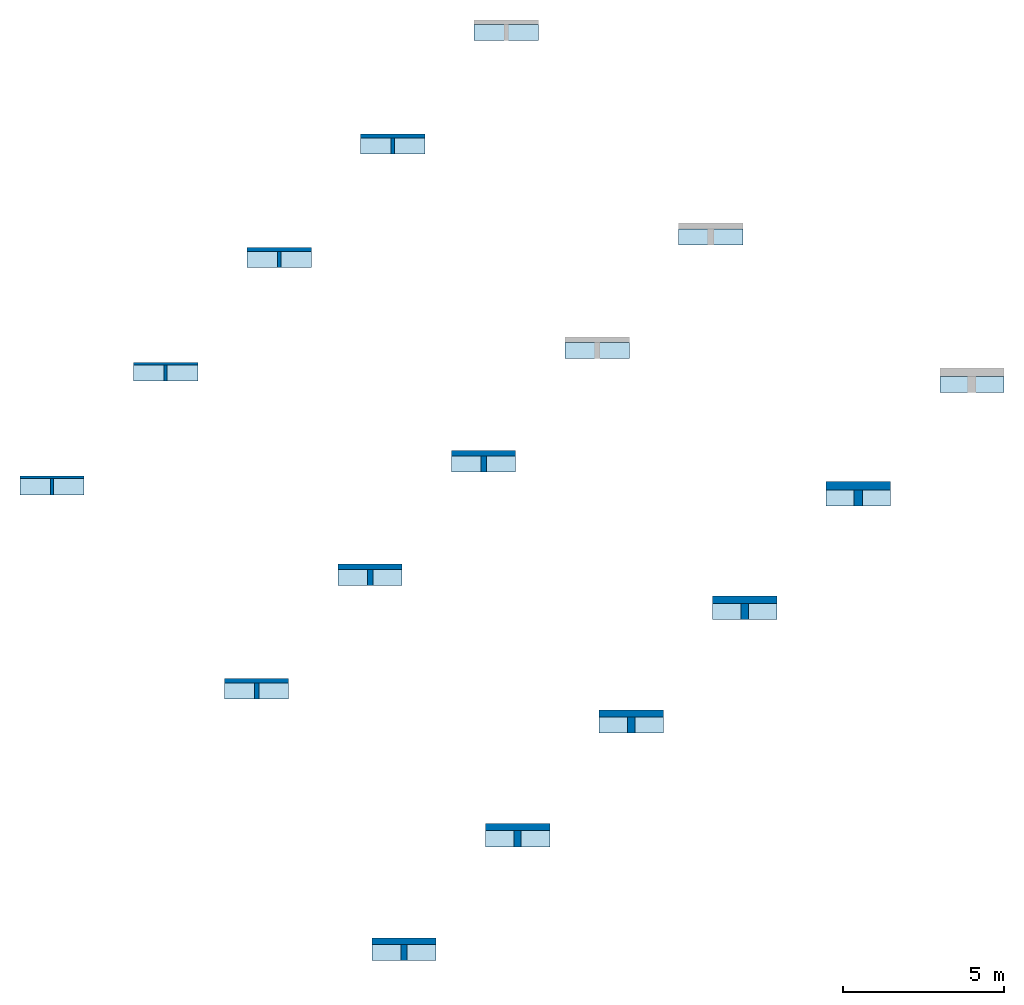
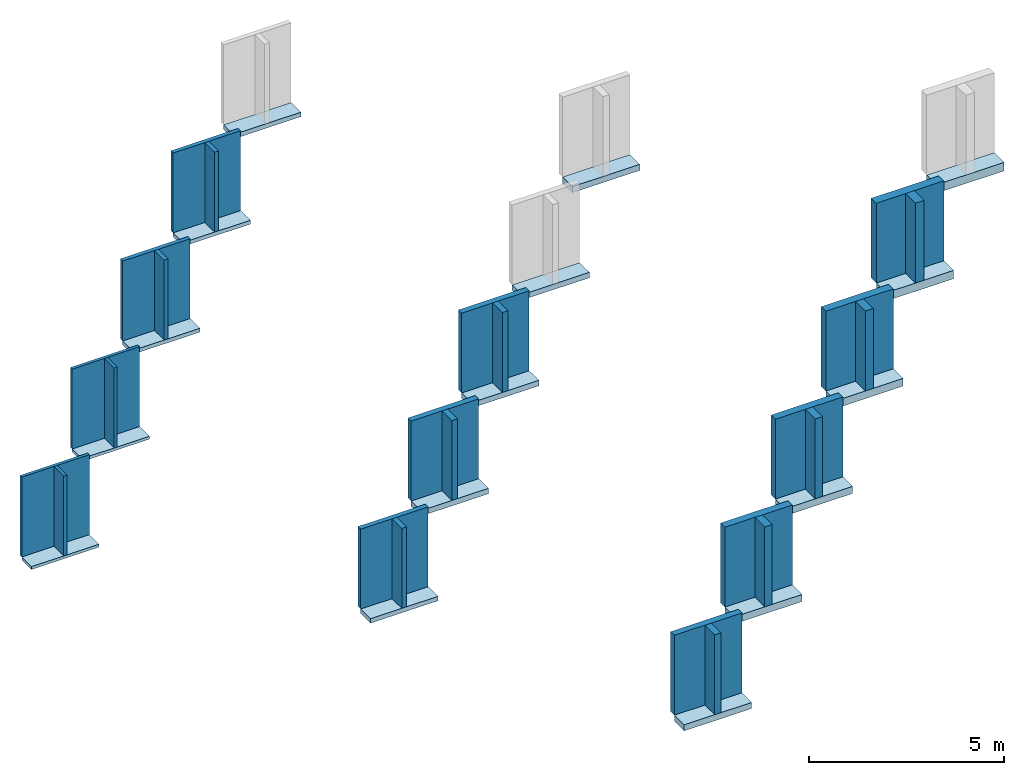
# One storey, part 1 of 2: 24 walls, 16 slabs.
"""IFC2X3 building model written with IfcOpenShell, lengths in millimetres."""

from ifc_helpers import new_model, entity, si_unit, converted_unit, derived_unit, direction, frame, frame_2d, origin, origin_2d_with_axis, place, context, subcontext, project, spatial, rectangle, extrude, material, layer, layer_set, layer_usage, type_object, element, save


model = new_model("IFC2X3")

# Units and contexts
model_context = context("Model", 3, precision=0.01, world=origin(), true_north=direction((6.12303176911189e-17, 1.0)))
context_of_model = context(None, 3, precision=0.01, world=origin(), true_north=direction((6.12303176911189e-17, 1.0)))
body_context = subcontext(model_context, "Body", "Model", "MODEL_VIEW")
ifc_project = project(units=[si_unit("LENGTHUNIT", "METRE", prefix="MILLI"), si_unit("AREAUNIT", "SQUARE_METRE"), si_unit("VOLUMEUNIT", "CUBIC_METRE"), converted_unit("PLANEANGLEUNIT", "DEGREE", entity("IfcRatioMeasure", 0.0174532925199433), si_unit("PLANEANGLEUNIT", "RADIAN"), dimensions=[0, 0, 0, 0, 0, 0, 0]), si_unit("MASSUNIT", "GRAM", prefix="KILO"), derived_unit("MASSDENSITYUNIT", [(si_unit("MASSUNIT", "GRAM", prefix="KILO"), 1), (si_unit("LENGTHUNIT", "METRE"), -3)]), si_unit("TIMEUNIT", "SECOND"), si_unit("FREQUENCYUNIT", "HERTZ"), si_unit("THERMODYNAMICTEMPERATUREUNIT", "DEGREE_CELSIUS"), derived_unit("THERMALTRANSMITTANCEUNIT", [(si_unit("MASSUNIT", "GRAM", prefix="KILO"), 1), (si_unit("THERMODYNAMICTEMPERATUREUNIT", "KELVIN"), -1), (si_unit("TIMEUNIT", "SECOND"), -3)]), derived_unit("VOLUMETRICFLOWRATEUNIT", [(si_unit("LENGTHUNIT", "METRE"), 3), (si_unit("TIMEUNIT", "SECOND"), -1)]), si_unit("ELECTRICCURRENTUNIT", "AMPERE"), si_unit("ELECTRICVOLTAGEUNIT", "VOLT"), si_unit("POWERUNIT", "WATT"), si_unit("FORCEUNIT", "NEWTON", prefix="KILO"), si_unit("ILLUMINANCEUNIT", "LUX"), si_unit("LUMINOUSFLUXUNIT", "LUMEN"), si_unit("LUMINOUSINTENSITYUNIT", "CANDELA"), derived_unit("USERDEFINED", [(si_unit("MASSUNIT", "GRAM", prefix="KILO"), -1), (si_unit("LENGTHUNIT", "METRE"), -2), (si_unit("TIMEUNIT", "SECOND"), 3), (si_unit("LUMINOUSFLUXUNIT", "LUMEN"), 1)]), derived_unit("LINEARVELOCITYUNIT", [(si_unit("LENGTHUNIT", "METRE"), 1), (si_unit("TIMEUNIT", "SECOND"), -1)]), si_unit("PRESSUREUNIT", "PASCAL"), derived_unit("USERDEFINED", [(si_unit("LENGTHUNIT", "METRE"), -2), (si_unit("MASSUNIT", "GRAM", prefix="KILO"), 1), (si_unit("TIMEUNIT", "SECOND"), -2)])], contexts=[model_context, context_of_model])

# Site, building, storey
site_placement = place(None, origin())
site = spatial("IfcSite", under=ifc_project, at=site_placement, Name="Default", CompositionType="ELEMENT")
building_placement = place(site_placement, origin())
building = spatial("IfcBuilding", under=site, at=building_placement, CompositionType="ELEMENT")
storey_placement = place(building_placement, origin())
storey = spatial("IfcBuildingStorey", under=building, at=storey_placement, Name="Begane grond", CompositionType="ELEMENT", Elevation=0.0)

# Slabs
ifc_material = material(Name="Knauf Insulation_Ecose® glaswol_naturoll 037")
ifc_layer_1 = layer(ifc_material, 90.0)
ifc_layer_set_1 = layer_set([ifc_layer_1], Name="Floor:NLRS_23_FL_Naturoll 037_90x380x8200mm")
ifc_layer_usage_1 = layer_usage(ifc_layer_set_1, "AXIS3", "POSITIVE", 0.0)
slab_type_1 = type_object("IfcSlabType", Name="Floor:NLRS_23_FL_Naturoll 037_90x380x8200mm", PredefinedType="FLOOR", material=ifc_layer_set_1)
slab_1_placement = place(storey_placement, origin())
element("IfcSlab", 1, at=slab_1_placement, inside=storey, type_object=slab_type_1, material=ifc_layer_usage_1, Name="Floor:NLRS_23_FL_Naturoll 037_90x380x8200mm", ObjectType="Floor:NLRS_23_FL_Naturoll 037_90x380x8200mm", PredefinedType="FLOOR", context=body_context, shape_type="SweptSolid", body=[
    extrude(rectangle(XDim=500.0, YDim=2000.0, at=frame_2d((0.0, -5.6843418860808e-13), x_axis=(1.0, 0.0))), frame((-8072.40468108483, 2789.14727702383, 0.0), z_axis=(0.0, 0.0, -1.0), x_axis=(0.0, 1.0, 0.0)), (0.0, 0.0, 1.0), 90.0),
])
ifc_layer_2 = layer(ifc_material, 90.0)
ifc_layer_set_2 = layer_set([ifc_layer_2], Name="Floor:NLRS_23_FL_Naturoll 037_90x580x8200mm")
ifc_layer_usage_2 = layer_usage(ifc_layer_set_2, "AXIS3", "POSITIVE", 0.0)
slab_type_2 = type_object("IfcSlabType", Name="Floor:NLRS_23_FL_Naturoll 037_90x580x8200mm", PredefinedType="FLOOR", material=ifc_layer_set_2)
slab_2_placement = place(storey_placement, origin())
element("IfcSlab", 2, at=slab_2_placement, inside=storey, type_object=slab_type_2, material=ifc_layer_usage_2, Name="Floor:NLRS_23_FL_Naturoll 037_90x580x8200mm", ObjectType="Floor:NLRS_23_FL_Naturoll 037_90x580x8200mm", PredefinedType="FLOOR", context=body_context, shape_type="SweptSolid", body=[
    extrude(rectangle(XDim=499.999999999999, YDim=2000.0, at=origin_2d_with_axis()), frame((-4536.87077515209, 6324.68118295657, 0.0), z_axis=(0.0, 0.0, -1.0), x_axis=(0.0, 1.0, 0.0)), (0.0, 0.0, 1.0), 90.0),
])
ifc_layer_3 = layer(ifc_material, 120.0)
ifc_layer_set_3 = layer_set([ifc_layer_3], Name="Floor:NLRS_23_FL_Naturoll 037_120x380x6500mm")
ifc_layer_usage_3 = layer_usage(ifc_layer_set_3, "AXIS3", "POSITIVE", 0.0)
slab_type_3 = type_object("IfcSlabType", Name="Floor:NLRS_23_FL_Naturoll 037_120x380x6500mm", PredefinedType="FLOOR", material=ifc_layer_set_3)
slab_3_placement = place(storey_placement, origin())
element("IfcSlab", 3, at=slab_3_placement, inside=storey, type_object=slab_type_3, material=ifc_layer_usage_3, Name="Floor:NLRS_23_FL_Naturoll 037_120x380x6500mm", ObjectType="Floor:NLRS_23_FL_Naturoll 037_120x380x6500mm", PredefinedType="FLOOR", context=body_context, shape_type="SweptSolid", body=[
    extrude(rectangle(XDim=500.000000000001, YDim=2000.0, at=frame_2d((-1.08002495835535e-12, 0.0), x_axis=(1.0, 0.0))), frame((-1001.33686921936, 9860.2150888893, 0.0), z_axis=(0.0, 0.0, -1.0), x_axis=(0.0, 1.0, 0.0)), (0.0, 0.0, 1.0), 120.0),
])
ifc_layer_4 = layer(ifc_material, 120.0)
ifc_layer_set_4 = layer_set([ifc_layer_4], Name="Floor:NLRS_23_FL_Naturoll 037_120x580x6500mm")
ifc_layer_usage_4 = layer_usage(ifc_layer_set_4, "AXIS3", "POSITIVE", 0.0)
slab_type_4 = type_object("IfcSlabType", Name="Floor:NLRS_23_FL_Naturoll 037_120x580x6500mm", PredefinedType="FLOOR", material=ifc_layer_set_4)
slab_4_placement = place(storey_placement, origin())
element("IfcSlab", 4, at=slab_4_placement, inside=storey, type_object=slab_type_4, material=ifc_layer_usage_4, Name="Floor:NLRS_23_FL_Naturoll 037_120x580x6500mm", ObjectType="Floor:NLRS_23_FL_Naturoll 037_120x580x6500mm", PredefinedType="FLOOR", context=body_context, shape_type="SweptSolid", body=[
    extrude(rectangle(XDim=500.000000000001, YDim=2000.0, at=frame_2d((-1.08002495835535e-12, 0.0), x_axis=(1.0, 0.0))), frame((2534.19703671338, 13395.748994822, 0.0), z_axis=(0.0, 0.0, -1.0), x_axis=(0.0, 1.0, 0.0)), (0.0, 0.0, 1.0), 120.0),
])
ifc_layer_5 = layer(ifc_material, 140.0)
ifc_layer_set_5 = layer_set([ifc_layer_5], Name="Floor:NLRS_23_FL_Naturoll 037_140x380x5600mm")
ifc_layer_usage_5 = layer_usage(ifc_layer_set_5, "AXIS3", "POSITIVE", 0.0)
slab_type_5 = type_object("IfcSlabType", Name="Floor:NLRS_23_FL_Naturoll 037_140x380x5600mm", PredefinedType="FLOOR", material=ifc_layer_set_5)
slab_5_placement = place(storey_placement, origin())
element("IfcSlab", 5, at=slab_5_placement, inside=storey, type_object=slab_type_5, material=ifc_layer_usage_5, Name="Floor:NLRS_23_FL_Naturoll 037_140x380x5600mm", ObjectType="Floor:NLRS_23_FL_Naturoll 037_140x380x5600mm", PredefinedType="FLOOR", context=body_context, shape_type="SweptSolid", body=[
    extrude(rectangle(XDim=499.999999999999, YDim=2000.0, at=origin_2d_with_axis()), frame((6069.73094264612, 16931.2829007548, 0.0), z_axis=(0.0, 0.0, -1.0), x_axis=(0.0, 1.0, 0.0)), (0.0, 0.0, 1.0), 140.0),
])
ifc_layer_6 = layer(ifc_material, 140.0)
ifc_layer_set_6 = layer_set([ifc_layer_6], Name="Floor:NLRS_23_FL_Naturoll 037_140x580x5600mm")
ifc_layer_usage_6 = layer_usage(ifc_layer_set_6, "AXIS3", "POSITIVE", 0.0)
slab_type_6 = type_object("IfcSlabType", Name="Floor:NLRS_23_FL_Naturoll 037_140x580x5600mm", PredefinedType="FLOOR", material=ifc_layer_set_6)
slab_6_placement = place(storey_placement, origin())
element("IfcSlab", 6, at=slab_6_placement, inside=storey, type_object=slab_type_6, material=ifc_layer_usage_6, Name="Floor:NLRS_23_FL_Naturoll 037_140x580x5600mm", ObjectType="Floor:NLRS_23_FL_Naturoll 037_140x580x5600mm", PredefinedType="FLOOR", context=body_context, shape_type="SweptSolid", body=[
    extrude(rectangle(XDim=500.0, YDim=2000.0, at=frame_2d((5.40012479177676e-13, 0.0), x_axis=(1.0, 0.0))), frame((-1708.44365040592, -3574.81375365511, 0.0), z_axis=(0.0, 0.0, -1.0), x_axis=(0.0, 1.0, 0.0)), (0.0, 0.0, 1.0), 140.0),
])
ifc_layer_7 = layer(ifc_material, 170.0)
ifc_layer_set_7 = layer_set([ifc_layer_7], Name="Floor:NLRS_23_FL_Naturoll 037_170x380x5600mm")
ifc_layer_usage_7 = layer_usage(ifc_layer_set_7, "AXIS3", "POSITIVE", 0.0)
slab_type_7 = type_object("IfcSlabType", Name="Floor:NLRS_23_FL_Naturoll 037_170x380x5600mm", PredefinedType="FLOOR", material=ifc_layer_set_7)
slab_7_placement = place(storey_placement, origin())
element("IfcSlab", 7, at=slab_7_placement, inside=storey, type_object=slab_type_7, material=ifc_layer_usage_7, Name="Floor:NLRS_23_FL_Naturoll 037_170x380x5600mm", ObjectType="Floor:NLRS_23_FL_Naturoll 037_170x380x5600mm", PredefinedType="FLOOR", context=body_context, shape_type="SweptSolid", body=[
    extrude(rectangle(XDim=499.999999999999, YDim=2000.0, at=origin_2d_with_axis()), frame((1827.09025552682, -39.279847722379, 0.0), z_axis=(0.0, 0.0, -1.0), x_axis=(0.0, 1.0, 0.0)), (0.0, 0.0, 1.0), 170.0),
])
ifc_layer_8 = layer(ifc_material, 170.0)
ifc_layer_set_8 = layer_set([ifc_layer_8], Name="Floor:NLRS_23_FL_Naturoll 037_170x580x5600mm")
ifc_layer_usage_8 = layer_usage(ifc_layer_set_8, "AXIS3", "POSITIVE", 0.0)
slab_type_8 = type_object("IfcSlabType", Name="Floor:NLRS_23_FL_Naturoll 037_170x580x5600mm", PredefinedType="FLOOR", material=ifc_layer_set_8)
slab_8_placement = place(storey_placement, origin())
element("IfcSlab", 8, at=slab_8_placement, inside=storey, type_object=slab_type_8, material=ifc_layer_usage_8, Name="Floor:NLRS_23_FL_Naturoll 037_170x580x5600mm", ObjectType="Floor:NLRS_23_FL_Naturoll 037_170x580x5600mm", PredefinedType="FLOOR", context=body_context, shape_type="SweptSolid", body=[
    extrude(rectangle(XDim=500.000000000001, YDim=2000.0, at=frame_2d((0.0, 2.8421709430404e-13), x_axis=(1.0, 0.0))), frame((5362.62416145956, 3496.25405821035, 0.0), z_axis=(0.0, 0.0, -1.0), x_axis=(0.0, 1.0, 0.0)), (0.0, 0.0, 1.0), 170.0),
])
ifc_layer_9 = layer(ifc_material, 170.0)
ifc_layer_set_9 = layer_set([ifc_layer_9], Name="Floor:NLRS_23_FL_Naturoll 037_170x590x5600mm")
ifc_layer_usage_9 = layer_usage(ifc_layer_set_9, "AXIS3", "POSITIVE", 0.0)
slab_type_9 = type_object("IfcSlabType", Name="Floor:NLRS_23_FL_Naturoll 037_170x590x5600mm", PredefinedType="FLOOR", material=ifc_layer_set_9)
slab_9_placement = place(storey_placement, origin())
element("IfcSlab", 9, at=slab_9_placement, inside=storey, type_object=slab_type_9, material=ifc_layer_usage_9, Name="Floor:NLRS_23_FL_Naturoll 037_170x590x5600mm", ObjectType="Floor:NLRS_23_FL_Naturoll 037_170x590x5600mm", PredefinedType="FLOOR", context=body_context, shape_type="SweptSolid", body=[
    extrude(rectangle(XDim=500.000000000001, YDim=2000.0, at=frame_2d((-1.08002495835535e-12, 0.0), x_axis=(1.0, 0.0))), frame((8898.1580673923, 7031.78796414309, 0.0), z_axis=(0.0, 0.0, -1.0), x_axis=(0.0, 1.0, 0.0)), (0.0, 0.0, 1.0), 170.0),
])
ifc_layer_10 = layer(ifc_material, 190.0)
ifc_layer_set_10 = layer_set([ifc_layer_10], Name="Floor:NLRS_23_FL_Naturoll 037_190x580x4100mm")
ifc_layer_usage_10 = layer_usage(ifc_layer_set_10, "AXIS3", "POSITIVE", 0.0)
slab_type_10 = type_object("IfcSlabType", Name="Floor:NLRS_23_FL_Naturoll 037_190x580x4100mm", PredefinedType="FLOOR", material=ifc_layer_set_10)
slab_10_placement = place(storey_placement, origin())
element("IfcSlab", 10, at=slab_10_placement, inside=storey, type_object=slab_type_10, material=ifc_layer_usage_10, Name="Floor:NLRS_23_FL_Naturoll 037_190x580x4100mm", ObjectType="Floor:NLRS_23_FL_Naturoll 037_190x580x4100mm", PredefinedType="FLOOR", context=body_context, shape_type="SweptSolid", body=[
    extrude(rectangle(XDim=499.999999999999, YDim=2000.0, at=origin_2d_with_axis()), frame((12433.691973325, 10567.3218700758, 0.0), z_axis=(0.0, 0.0, -1.0), x_axis=(0.0, 1.0, 0.0)), (0.0, 0.0, 1.0), 190.0),
])
ifc_layer_11 = layer(ifc_material, 190.0)
ifc_layer_set_11 = layer_set([ifc_layer_11], Name="Floor:NLRS_23_FL_Naturoll 037_190x590x4100mm")
ifc_layer_usage_11 = layer_usage(ifc_layer_set_11, "AXIS3", "POSITIVE", 0.0)
slab_type_11 = type_object("IfcSlabType", Name="Floor:NLRS_23_FL_Naturoll 037_190x590x4100mm", PredefinedType="FLOOR", material=ifc_layer_set_11)
slab_11_placement = place(storey_placement, origin())
element("IfcSlab", 11, at=slab_11_placement, inside=storey, type_object=slab_type_11, material=ifc_layer_usage_11, Name="Floor:NLRS_23_FL_Naturoll 037_190x590x4100mm", ObjectType="Floor:NLRS_23_FL_Naturoll 037_190x590x4100mm", PredefinedType="FLOOR", context=body_context, shape_type="SweptSolid", body=[
    extrude(rectangle(XDim=500.000000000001, YDim=2000.0, at=frame_2d((1.08002495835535e-12, 0.0), x_axis=(1.0, 0.0))), frame((2887.75042730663, -11706.5417373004, 0.0), z_axis=(0.0, 0.0, -1.0), x_axis=(0.0, 1.0, 0.0)), (0.0, 0.0, 1.0), 190.0),
])
ifc_layer_12 = layer(ifc_material, 220.0)
ifc_layer_set_12 = layer_set([ifc_layer_12], Name="Floor:NLRS_23_FL_Naturoll 037_220x580x3500mm")
ifc_layer_usage_12 = layer_usage(ifc_layer_set_12, "AXIS3", "POSITIVE", 0.0)
slab_type_12 = type_object("IfcSlabType", Name="Floor:NLRS_23_FL_Naturoll 037_220x580x3500mm", PredefinedType="FLOOR", material=ifc_layer_set_12)
slab_12_placement = place(storey_placement, origin())
element("IfcSlab", 12, at=slab_12_placement, inside=storey, type_object=slab_type_12, material=ifc_layer_usage_12, Name="Floor:NLRS_23_FL_Naturoll 037_220x580x3500mm", ObjectType="Floor:NLRS_23_FL_Naturoll 037_220x580x3500mm", PredefinedType="FLOOR", context=body_context, shape_type="SweptSolid", body=[
    extrude(rectangle(XDim=499.999999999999, YDim=2000.0, at=origin_2d_with_axis()), frame((6423.28433323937, -8171.00783136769, 0.0), z_axis=(0.0, 0.0, -1.0), x_axis=(0.0, 1.0, 0.0)), (0.0, 0.0, 1.0), 220.0),
])
ifc_layer_13 = layer(ifc_material, 220.0)
ifc_layer_set_13 = layer_set([ifc_layer_13], Name="Floor:NLRS_23_FL_Naturoll 037_220x590x3500mm")
ifc_layer_usage_13 = layer_usage(ifc_layer_set_13, "AXIS3", "POSITIVE", 0.0)
slab_type_13 = type_object("IfcSlabType", Name="Floor:NLRS_23_FL_Naturoll 037_220x590x3500mm", PredefinedType="FLOOR", material=ifc_layer_set_13)
slab_13_placement = place(storey_placement, origin())
element("IfcSlab", 13, at=slab_13_placement, inside=storey, type_object=slab_type_13, material=ifc_layer_usage_13, Name="Floor:NLRS_23_FL_Naturoll 037_220x590x3500mm", ObjectType="Floor:NLRS_23_FL_Naturoll 037_220x590x3500mm", PredefinedType="FLOOR", context=body_context, shape_type="SweptSolid", body=[
    extrude(rectangle(XDim=500.000000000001, YDim=2000.0, at=origin_2d_with_axis()), frame((9958.81823917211, -4635.47392543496, 0.0), z_axis=(0.0, 0.0, -1.0), x_axis=(0.0, 1.0, 0.0)), (0.0, 0.0, 1.0), 220.0),
])
ifc_layer_14 = layer(ifc_material, 240.0)
ifc_layer_set_14 = layer_set([ifc_layer_14], Name="Floor:NLRS_23_FL_Naturoll 037_240x590x3250mm")
ifc_layer_usage_14 = layer_usage(ifc_layer_set_14, "AXIS3", "POSITIVE", 0.0)
slab_type_14 = type_object("IfcSlabType", Name="Floor:NLRS_23_FL_Naturoll 037_240x590x3250mm", PredefinedType="FLOOR", material=ifc_layer_set_14)
slab_14_placement = place(storey_placement, origin())
element("IfcSlab", 14, at=slab_14_placement, inside=storey, type_object=slab_type_14, material=ifc_layer_usage_14, Name="Floor:NLRS_23_FL_Naturoll 037_240x590x3250mm", ObjectType="Floor:NLRS_23_FL_Naturoll 037_240x590x3250mm", PredefinedType="FLOOR", context=body_context, shape_type="SweptSolid", body=[
    extrude(rectangle(XDim=500.000000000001, YDim=2000.0, at=origin_2d_with_axis()), frame((13494.3521451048, -1099.94001950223, 0.0), z_axis=(0.0, 0.0, -1.0), x_axis=(0.0, 1.0, 0.0)), (0.0, 0.0, 1.0), 240.0),
])
ifc_layer_15 = layer(ifc_material, 260.0)
ifc_layer_set_15 = layer_set([ifc_layer_15], Name="Floor:NLRS_23_FL_Naturoll 037_260x580x3000mm")
ifc_layer_usage_15 = layer_usage(ifc_layer_set_15, "AXIS3", "POSITIVE", 0.0)
slab_type_15 = type_object("IfcSlabType", Name="Floor:NLRS_23_FL_Naturoll 037_260x580x3000mm", PredefinedType="FLOOR", material=ifc_layer_set_15)
slab_15_placement = place(storey_placement, origin())
element("IfcSlab", 15, at=slab_15_placement, inside=storey, type_object=slab_type_15, material=ifc_layer_usage_15, Name="Floor:NLRS_23_FL_Naturoll 037_260x580x3000mm", ObjectType="Floor:NLRS_23_FL_Naturoll 037_260x580x3000mm", PredefinedType="FLOOR", context=body_context, shape_type="SweptSolid", body=[
    extrude(rectangle(XDim=499.999999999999, YDim=2000.0, at=frame_2d((0.0, 2.1600499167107e-12), x_axis=(1.0, 0.0))), frame((17029.8860510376, 2435.5938864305, 0.0), z_axis=(0.0, 0.0, -1.0), x_axis=(0.0, 1.0, 0.0)), (0.0, 0.0, 1.0), 260.0),
])
ifc_layer_16 = layer(ifc_material, 265.0)
ifc_layer_set_16 = layer_set([ifc_layer_16], Name="Floor:NLRS_23_FL_Naturoll 037_265x590x3000mm")
ifc_layer_usage_16 = layer_usage(ifc_layer_set_16, "AXIS3", "POSITIVE", 0.0)
slab_type_16 = type_object("IfcSlabType", Name="Floor:NLRS_23_FL_Naturoll 037_265x590x3000mm", PredefinedType="FLOOR", material=ifc_layer_set_16)
slab_16_placement = place(storey_placement, origin())
element("IfcSlab", 16, at=slab_16_placement, inside=storey, type_object=slab_type_16, material=ifc_layer_usage_16, Name="Floor:NLRS_23_FL_Naturoll 037_265x590x3000mm", ObjectType="Floor:NLRS_23_FL_Naturoll 037_265x590x3000mm", PredefinedType="FLOOR", context=body_context, shape_type="SweptSolid", body=[
    extrude(rectangle(XDim=499.999999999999, YDim=2000.0, at=frame_2d((0.0, 2.1600499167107e-12), x_axis=(1.0, 0.0))), frame((20565.4199569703, 5971.12779236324, 0.0), z_axis=(0.0, 0.0, -1.0), x_axis=(0.0, 1.0, 0.0)), (0.0, 0.0, 1.0), 265.0),
])

# Walls
ifc_layer_17 = layer(ifc_material, 90.0)
ifc_layer_set_17 = layer_set([ifc_layer_17], Name="Basic Wall:NLRS_21_WA_Naturoll 037_90x380x8200mm")
ifc_layer_usage_17 = layer_usage(ifc_layer_set_17, "AXIS2", "NEGATIVE", 45.0)
wall_type_1 = type_object("IfcWallType", Name="Basic Wall:NLRS_21_WA_Naturoll 037_90x380x8200mm", PredefinedType="STANDARD", material=ifc_layer_set_17)
wall_1_placement = place(storey_placement, frame((-9072.40468108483, 3084.14727702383, 0.0)))
element("IfcWallStandardCase", 17, at=wall_1_placement, inside=storey, type_object=wall_type_1, material=ifc_layer_usage_17, Name="Basic Wall:NLRS_21_WA_Naturoll 037_90x380x8200mm", ObjectType="Basic Wall:NLRS_21_WA_Naturoll 037_90x380x8200mm", context=body_context, shape_type="SweptSolid", body=[
    extrude(rectangle(XDim=2000.0, YDim=90.0000000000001, at=frame_2d((1000.0, 0.0), x_axis=(-1.0, 0.0))), origin(), (0.0, 0.0, 1.0), 2500.0),
])
ifc_layer_usage_18 = layer_usage(ifc_layer_set_17, "AXIS2", "NEGATIVE", 45.0)
wall_2_placement = place(storey_placement, frame((-8072.40468108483, 3039.14727702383, 0.0), z_axis=(0.0, 0.0, 1.0), x_axis=(0.0, -1.0, 0.0)))
element("IfcWallStandardCase", 18, at=wall_2_placement, inside=storey, type_object=wall_type_1, material=ifc_layer_usage_18, Name="Basic Wall:NLRS_21_WA_Naturoll 037_90x380x8200mm", ObjectType="Basic Wall:NLRS_21_WA_Naturoll 037_90x380x8200mm", context=body_context, shape_type="SweptSolid", body=[
    extrude(rectangle(XDim=500.0, YDim=89.999999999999, at=frame_2d((250.0, -1.35003119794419e-13), x_axis=(-1.0, 0.0))), origin(), (0.0, 0.0, 1.0), 2500.0),
])
ifc_layer_18 = layer(ifc_material, 90.0)
ifc_layer_set_18 = layer_set([ifc_layer_18], Name="Basic Wall:NLRS_21_WA_Naturoll 037_90x580x8200mm")
ifc_layer_usage_19 = layer_usage(ifc_layer_set_18, "AXIS2", "NEGATIVE", 45.0)
wall_type_2 = type_object("IfcWallType", Name="Basic Wall:NLRS_21_WA_Naturoll 037_90x580x8200mm", PredefinedType="STANDARD", material=ifc_layer_set_18)
wall_3_placement = place(storey_placement, frame((-5536.87077515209, 6619.68118295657, 0.0)))
element("IfcWallStandardCase", 19, at=wall_3_placement, inside=storey, type_object=wall_type_2, material=ifc_layer_usage_19, Name="Basic Wall:NLRS_21_WA_Naturoll 037_90x580x8200mm", ObjectType="Basic Wall:NLRS_21_WA_Naturoll 037_90x580x8200mm", context=body_context, shape_type="SweptSolid", body=[
    extrude(rectangle(XDim=2000.0, YDim=89.999999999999, at=frame_2d((1000.0, 0.0), x_axis=(-1.0, 0.0))), origin(), (0.0, 0.0, 1.0), 2500.0),
])
ifc_layer_usage_20 = layer_usage(ifc_layer_set_18, "AXIS2", "NEGATIVE", 45.0)
wall_4_placement = place(storey_placement, frame((-4536.87077515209, 6574.68118295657, 0.0), z_axis=(0.0, 0.0, 1.0), x_axis=(0.0, -1.0, 0.0)))
element("IfcWallStandardCase", 20, at=wall_4_placement, inside=storey, type_object=wall_type_2, material=ifc_layer_usage_20, Name="Basic Wall:NLRS_21_WA_Naturoll 037_90x580x8200mm", ObjectType="Basic Wall:NLRS_21_WA_Naturoll 037_90x580x8200mm", context=body_context, shape_type="SweptSolid", body=[
    extrude(rectangle(XDim=499.999999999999, YDim=90.0000000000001, at=frame_2d((249.999999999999, -1.35003119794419e-13), x_axis=(-1.0, 0.0))), origin(), (0.0, 0.0, 1.0), 2500.0),
])
ifc_layer_19 = layer(ifc_material, 120.0)
ifc_layer_set_19 = layer_set([ifc_layer_19], Name="Basic Wall:NLRS_21_WA_Naturoll 037_120x380x6500mm")
ifc_layer_usage_21 = layer_usage(ifc_layer_set_19, "AXIS2", "NEGATIVE", 60.0)
wall_type_3 = type_object("IfcWallType", Name="Basic Wall:NLRS_21_WA_Naturoll 037_120x380x6500mm", PredefinedType="STANDARD", material=ifc_layer_set_19)
wall_5_placement = place(storey_placement, frame((-2001.33686921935, 10170.2150888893, 0.0)))
element("IfcWallStandardCase", 21, at=wall_5_placement, inside=storey, type_object=wall_type_3, material=ifc_layer_usage_21, Name="Basic Wall:NLRS_21_WA_Naturoll 037_120x380x6500mm", ObjectType="Basic Wall:NLRS_21_WA_Naturoll 037_120x380x6500mm", context=body_context, shape_type="SweptSolid", body=[
    extrude(rectangle(XDim=2000.0, YDim=119.999999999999, at=frame_2d((1000.0, 0.0), x_axis=(-1.0, 0.0))), origin(), (0.0, 0.0, 1.0), 2500.0),
])
ifc_layer_usage_22 = layer_usage(ifc_layer_set_19, "AXIS2", "NEGATIVE", 60.0)
wall_6_placement = place(storey_placement, frame((-1001.33686921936, 10110.2150888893, 0.0), z_axis=(0.0, 0.0, 1.0), x_axis=(0.0, -1.0, 0.0)))
element("IfcWallStandardCase", 22, at=wall_6_placement, inside=storey, type_object=wall_type_3, material=ifc_layer_usage_22, Name="Basic Wall:NLRS_21_WA_Naturoll 037_120x380x6500mm", ObjectType="Basic Wall:NLRS_21_WA_Naturoll 037_120x380x6500mm", context=body_context, shape_type="SweptSolid", body=[
    extrude(rectangle(XDim=500.000000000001, YDim=120.0, at=frame_2d((250.000000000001, 0.0), x_axis=(-1.0, 0.0))), origin(), (0.0, 0.0, 1.0), 2500.0),
])
ifc_layer_20 = layer(ifc_material, 120.0)
ifc_layer_set_20 = layer_set([ifc_layer_20], Name="Basic Wall:NLRS_21_WA_Naturoll 037_120x580x6500mm")
ifc_layer_usage_23 = layer_usage(ifc_layer_set_20, "AXIS2", "NEGATIVE", 60.0)
wall_type_4 = type_object("IfcWallType", Name="Basic Wall:NLRS_21_WA_Naturoll 037_120x580x6500mm", PredefinedType="STANDARD", material=ifc_layer_set_20)
wall_7_placement = place(storey_placement, frame((1534.19703671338, 13705.748994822, 0.0)))
element("IfcWallStandardCase", 23, at=wall_7_placement, inside=storey, type_object=wall_type_4, material=ifc_layer_usage_23, Name="Basic Wall:NLRS_21_WA_Naturoll 037_120x580x6500mm", ObjectType="Basic Wall:NLRS_21_WA_Naturoll 037_120x580x6500mm", context=body_context, shape_type="SweptSolid", body=[
    extrude(rectangle(XDim=2000.0, YDim=119.999999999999, at=frame_2d((1000.0, 0.0), x_axis=(-1.0, 0.0))), origin(), (0.0, 0.0, 1.0), 2500.0),
])
ifc_layer_usage_24 = layer_usage(ifc_layer_set_20, "AXIS2", "NEGATIVE", 60.0)
wall_8_placement = place(storey_placement, frame((2534.19703671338, 13645.748994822, 0.0), z_axis=(0.0, 0.0, 1.0), x_axis=(0.0, -1.0, 0.0)))
element("IfcWallStandardCase", 24, at=wall_8_placement, inside=storey, type_object=wall_type_4, material=ifc_layer_usage_24, Name="Basic Wall:NLRS_21_WA_Naturoll 037_120x580x6500mm", ObjectType="Basic Wall:NLRS_21_WA_Naturoll 037_120x580x6500mm", context=body_context, shape_type="SweptSolid", body=[
    extrude(rectangle(XDim=500.000000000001, YDim=120.0, at=frame_2d((250.000000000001, -1.35003119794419e-13), x_axis=(-1.0, 0.0))), origin(), (0.0, 0.0, 1.0), 2500.0),
])
ifc_layer_21 = layer(ifc_material, 140.0)
ifc_layer_set_21 = layer_set([ifc_layer_21], Name="Basic Wall:NLRS_21_WA_Naturoll 037_140x580x5600mm")
ifc_layer_usage_25 = layer_usage(ifc_layer_set_21, "AXIS2", "NEGATIVE", 70.0)
wall_type_5 = type_object("IfcWallType", Name="Basic Wall:NLRS_21_WA_Naturoll 037_140x580x5600mm", PredefinedType="STANDARD", material=ifc_layer_set_21)
wall_9_placement = place(storey_placement, frame((-2708.44365040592, -3254.81375365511, 0.0)))
element("IfcWallStandardCase", 25, at=wall_9_placement, inside=storey, type_object=wall_type_5, material=ifc_layer_usage_25, Name="Basic Wall:NLRS_21_WA_Naturoll 037_140x580x5600mm", ObjectType="Basic Wall:NLRS_21_WA_Naturoll 037_140x580x5600mm", context=body_context, shape_type="SweptSolid", body=[
    extrude(rectangle(XDim=2000.0, YDim=140.0, at=frame_2d((1000.0, 0.0), x_axis=(-1.0, 0.0))), origin(), (0.0, 0.0, 1.0), 2500.0),
])
ifc_layer_usage_26 = layer_usage(ifc_layer_set_21, "AXIS2", "NEGATIVE", 70.0)
wall_10_placement = place(storey_placement, frame((-1708.44365040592, -3324.81375365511, 0.0), z_axis=(0.0, 0.0, 1.0), x_axis=(0.0, -1.0, 0.0)))
element("IfcWallStandardCase", 26, at=wall_10_placement, inside=storey, type_object=wall_type_5, material=ifc_layer_usage_26, Name="Basic Wall:NLRS_21_WA_Naturoll 037_140x580x5600mm", ObjectType="Basic Wall:NLRS_21_WA_Naturoll 037_140x580x5600mm", context=body_context, shape_type="SweptSolid", body=[
    extrude(rectangle(XDim=500.0, YDim=140.0, at=frame_2d((250.0, 0.0), x_axis=(-1.0, 0.0))), origin(), (0.0, 0.0, 1.0), 2500.0),
])
ifc_layer_22 = layer(ifc_material, 170.0)
ifc_layer_set_22 = layer_set([ifc_layer_22], Name="Basic Wall:NLRS_21_WA_Naturoll 037_170x380x4600mm")
ifc_layer_usage_27 = layer_usage(ifc_layer_set_22, "AXIS2", "NEGATIVE", 85.0)
wall_type_6 = type_object("IfcWallType", Name="Basic Wall:NLRS_21_WA_Naturoll 037_170x380x4600mm", PredefinedType="STANDARD", material=ifc_layer_set_22)
wall_11_placement = place(storey_placement, frame((827.090255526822, 295.720152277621, 0.0)))
element("IfcWallStandardCase", 27, at=wall_11_placement, inside=storey, type_object=wall_type_6, material=ifc_layer_usage_27, Name="Basic Wall:NLRS_21_WA_Naturoll 037_170x380x4600mm", ObjectType="Basic Wall:NLRS_21_WA_Naturoll 037_170x380x4600mm", context=body_context, shape_type="SweptSolid", body=[
    extrude(rectangle(XDim=2000.0, YDim=170.0, at=frame_2d((1000.0, 1.4210854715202e-14), x_axis=(-1.0, 0.0))), origin(), (0.0, 0.0, 1.0), 2500.0),
])
ifc_layer_usage_28 = layer_usage(ifc_layer_set_22, "AXIS2", "NEGATIVE", 85.0)
wall_12_placement = place(storey_placement, frame((1827.09025552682, 210.720152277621, 0.0), z_axis=(0.0, 0.0, 1.0), x_axis=(0.0, -1.0, 0.0)))
element("IfcWallStandardCase", 28, at=wall_12_placement, inside=storey, type_object=wall_type_6, material=ifc_layer_usage_28, Name="Basic Wall:NLRS_21_WA_Naturoll 037_170x380x4600mm", ObjectType="Basic Wall:NLRS_21_WA_Naturoll 037_170x380x4600mm", context=body_context, shape_type="SweptSolid", body=[
    extrude(rectangle(XDim=500.0, YDim=170.0, at=frame_2d((250.0, 0.0), x_axis=(-1.0, 0.0))), origin(), (0.0, 0.0, 1.0), 2500.0),
])
ifc_layer_23 = layer(ifc_material, 170.0)
ifc_layer_set_23 = layer_set([ifc_layer_23], Name="Basic Wall:NLRS_21_WA_Naturoll 037_170x580x4600mm")
ifc_layer_usage_29 = layer_usage(ifc_layer_set_23, "AXIS2", "NEGATIVE", 85.0)
wall_type_7 = type_object("IfcWallType", Name="Basic Wall:NLRS_21_WA_Naturoll 037_170x580x4600mm", PredefinedType="STANDARD", material=ifc_layer_set_23)
wall_13_placement = place(storey_placement, frame((4362.62416145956, 3831.25405821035, 0.0)))
element("IfcWallStandardCase", 29, at=wall_13_placement, inside=storey, type_object=wall_type_7, material=ifc_layer_usage_29, Name="Basic Wall:NLRS_21_WA_Naturoll 037_170x580x4600mm", ObjectType="Basic Wall:NLRS_21_WA_Naturoll 037_170x580x4600mm", context=body_context, shape_type="SweptSolid", body=[
    extrude(rectangle(XDim=2000.0, YDim=170.0, at=frame_2d((1000.0, 0.0), x_axis=(-1.0, 0.0))), origin(), (0.0, 0.0, 1.0), 2500.0),
])
ifc_layer_usage_30 = layer_usage(ifc_layer_set_23, "AXIS2", "NEGATIVE", 85.0)
wall_14_placement = place(storey_placement, frame((5362.62416145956, 3746.25405821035, 0.0), z_axis=(0.0, 0.0, 1.0), x_axis=(0.0, -1.0, 0.0)))
element("IfcWallStandardCase", 30, at=wall_14_placement, inside=storey, type_object=wall_type_7, material=ifc_layer_usage_30, Name="Basic Wall:NLRS_21_WA_Naturoll 037_170x580x4600mm", ObjectType="Basic Wall:NLRS_21_WA_Naturoll 037_170x580x4600mm", context=body_context, shape_type="SweptSolid", body=[
    extrude(rectangle(XDim=500.000000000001, YDim=170.0, at=frame_2d((250.0, -1.35003119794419e-13), x_axis=(-1.0, 0.0))), origin(), (0.0, 0.0, 1.0), 2500.0),
])
ifc_layer_24 = layer(ifc_material, 190.0)
ifc_layer_set_24 = layer_set([ifc_layer_24], Name="Basic Wall:NLRS_21_WA_Naturoll 037_190x590x4100mm")
ifc_layer_usage_31 = layer_usage(ifc_layer_set_24, "AXIS2", "NEGATIVE", 95.0)
wall_type_8 = type_object("IfcWallType", Name="Basic Wall:NLRS_21_WA_Naturoll 037_190x590x4100mm", PredefinedType="STANDARD", material=ifc_layer_set_24)
wall_15_placement = place(storey_placement, frame((1887.75042730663, -11361.5417373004, 0.0)))
element("IfcWallStandardCase", 31, at=wall_15_placement, inside=storey, type_object=wall_type_8, material=ifc_layer_usage_31, Name="Basic Wall:NLRS_21_WA_Naturoll 037_190x590x4100mm", ObjectType="Basic Wall:NLRS_21_WA_Naturoll 037_190x590x4100mm", context=body_context, shape_type="SweptSolid", body=[
    extrude(rectangle(XDim=2000.0, YDim=190.0, at=frame_2d((1000.0, 0.0), x_axis=(-1.0, 0.0))), origin(), (0.0, 0.0, 1.0), 2500.0),
])
ifc_layer_usage_32 = layer_usage(ifc_layer_set_24, "AXIS2", "NEGATIVE", 95.0)
wall_16_placement = place(storey_placement, frame((2887.75042730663, -11456.5417373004, 0.0), z_axis=(0.0, 0.0, 1.0), x_axis=(0.0, -1.0, 0.0)))
element("IfcWallStandardCase", 32, at=wall_16_placement, inside=storey, type_object=wall_type_8, material=ifc_layer_usage_32, Name="Basic Wall:NLRS_21_WA_Naturoll 037_190x590x4100mm", ObjectType="Basic Wall:NLRS_21_WA_Naturoll 037_190x590x4100mm", context=body_context, shape_type="SweptSolid", body=[
    extrude(rectangle(XDim=500.000000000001, YDim=190.0, at=frame_2d((250.000000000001, -1.35003119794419e-13), x_axis=(-1.0, 0.0))), origin(), (0.0, 0.0, 1.0), 2500.0),
])
ifc_layer_25 = layer(ifc_material, 220.0)
ifc_layer_set_25 = layer_set([ifc_layer_25], Name="Basic Wall:NLRS_21_WA_Naturoll 037_220x580x3500mm")
ifc_layer_usage_33 = layer_usage(ifc_layer_set_25, "AXIS2", "NEGATIVE", 110.0)
wall_type_9 = type_object("IfcWallType", Name="Basic Wall:NLRS_21_WA_Naturoll 037_220x580x3500mm", PredefinedType="STANDARD", material=ifc_layer_set_25)
wall_17_placement = place(storey_placement, frame((5423.28433323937, -7811.00783136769, 0.0)))
element("IfcWallStandardCase", 33, at=wall_17_placement, inside=storey, type_object=wall_type_9, material=ifc_layer_usage_33, Name="Basic Wall:NLRS_21_WA_Naturoll 037_220x580x3500mm", ObjectType="Basic Wall:NLRS_21_WA_Naturoll 037_220x580x3500mm", context=body_context, shape_type="SweptSolid", body=[
    extrude(rectangle(XDim=2000.0, YDim=220.0, at=frame_2d((1000.0, 0.0), x_axis=(-1.0, 0.0))), origin(), (0.0, 0.0, 1.0), 2500.0),
])
ifc_layer_usage_34 = layer_usage(ifc_layer_set_25, "AXIS2", "NEGATIVE", 110.0)
wall_18_placement = place(storey_placement, frame((6423.28433323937, -7921.00783136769, 0.0), z_axis=(0.0, 0.0, 1.0), x_axis=(0.0, -1.0, 0.0)))
element("IfcWallStandardCase", 34, at=wall_18_placement, inside=storey, type_object=wall_type_9, material=ifc_layer_usage_34, Name="Basic Wall:NLRS_21_WA_Naturoll 037_220x580x3500mm", ObjectType="Basic Wall:NLRS_21_WA_Naturoll 037_220x580x3500mm", context=body_context, shape_type="SweptSolid", body=[
    extrude(rectangle(XDim=500.000000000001, YDim=220.0, at=frame_2d((250.000000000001, -1.35003119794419e-13), x_axis=(-1.0, 0.0))), origin(), (0.0, 0.0, 1.0), 2500.0),
])
ifc_layer_26 = layer(ifc_material, 220.0)
ifc_layer_set_26 = layer_set([ifc_layer_26], Name="Basic Wall:NLRS_21_WA_Naturoll 037_220x590x3500mm")
ifc_layer_usage_35 = layer_usage(ifc_layer_set_26, "AXIS2", "NEGATIVE", 110.0)
wall_type_10 = type_object("IfcWallType", Name="Basic Wall:NLRS_21_WA_Naturoll 037_220x590x3500mm", PredefinedType="STANDARD", material=ifc_layer_set_26)
wall_19_placement = place(storey_placement, frame((8958.81823917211, -4275.47392543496, 0.0)))
element("IfcWallStandardCase", 35, at=wall_19_placement, inside=storey, type_object=wall_type_10, material=ifc_layer_usage_35, Name="Basic Wall:NLRS_21_WA_Naturoll 037_220x590x3500mm", ObjectType="Basic Wall:NLRS_21_WA_Naturoll 037_220x590x3500mm", context=body_context, shape_type="SweptSolid", body=[
    extrude(rectangle(XDim=2000.0, YDim=220.0, at=frame_2d((1000.0, 0.0), x_axis=(-1.0, 0.0))), origin(), (0.0, 0.0, 1.0), 2500.0),
])
ifc_layer_usage_36 = layer_usage(ifc_layer_set_26, "AXIS2", "NEGATIVE", 110.0)
wall_20_placement = place(storey_placement, frame((9958.8182391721, -4385.47392543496, 0.0), z_axis=(0.0, 0.0, 1.0), x_axis=(0.0, -1.0, 0.0)))
element("IfcWallStandardCase", 36, at=wall_20_placement, inside=storey, type_object=wall_type_10, material=ifc_layer_usage_36, Name="Basic Wall:NLRS_21_WA_Naturoll 037_220x590x3500mm", ObjectType="Basic Wall:NLRS_21_WA_Naturoll 037_220x590x3500mm", context=body_context, shape_type="SweptSolid", body=[
    extrude(rectangle(XDim=500.0, YDim=220.000000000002, at=frame_2d((250.0, 4.05009359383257e-13), x_axis=(-1.0, 0.0))), origin(), (0.0, 0.0, 1.0), 2500.0),
])
ifc_layer_27 = layer(ifc_material, 240.0)
ifc_layer_set_27 = layer_set([ifc_layer_27], Name="Basic Wall:NLRS_21_WA_Naturoll 037_240x590x3250mm")
ifc_layer_usage_37 = layer_usage(ifc_layer_set_27, "AXIS2", "NEGATIVE", 120.0)
wall_type_11 = type_object("IfcWallType", Name="Basic Wall:NLRS_21_WA_Naturoll 037_240x590x3250mm", PredefinedType="STANDARD", material=ifc_layer_set_27)
wall_21_placement = place(storey_placement, frame((12494.3521451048, -729.940019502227, 0.0)))
element("IfcWallStandardCase", 37, at=wall_21_placement, inside=storey, type_object=wall_type_11, material=ifc_layer_usage_37, Name="Basic Wall:NLRS_21_WA_Naturoll 037_240x590x3250mm", ObjectType="Basic Wall:NLRS_21_WA_Naturoll 037_240x590x3250mm", context=body_context, shape_type="SweptSolid", body=[
    extrude(rectangle(XDim=2000.0, YDim=240.0, at=frame_2d((1000.0, 0.0), x_axis=(-1.0, 0.0))), origin(), (0.0, 0.0, 1.0), 2500.0),
])
ifc_layer_usage_38 = layer_usage(ifc_layer_set_27, "AXIS2", "NEGATIVE", 120.0)
wall_22_placement = place(storey_placement, frame((13494.3521451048, -849.940019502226, 0.0), z_axis=(0.0, 0.0, 1.0), x_axis=(0.0, -1.0, 0.0)))
element("IfcWallStandardCase", 38, at=wall_22_placement, inside=storey, type_object=wall_type_11, material=ifc_layer_usage_38, Name="Basic Wall:NLRS_21_WA_Naturoll 037_240x590x3250mm", ObjectType="Basic Wall:NLRS_21_WA_Naturoll 037_240x590x3250mm", context=body_context, shape_type="SweptSolid", body=[
    extrude(rectangle(XDim=500.0, YDim=240.000000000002, at=frame_2d((250.0, 4.05009359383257e-13), x_axis=(-1.0, 0.0))), origin(), (0.0, 0.0, 1.0), 2500.0),
])
ifc_layer_28 = layer(ifc_material, 260.0)
ifc_layer_set_28 = layer_set([ifc_layer_28], Name="Basic Wall:NLRS_21_WA_Naturoll 037_260x580x3000mm")
ifc_layer_usage_39 = layer_usage(ifc_layer_set_28, "AXIS2", "NEGATIVE", 130.0)
wall_type_12 = type_object("IfcWallType", Name="Basic Wall:NLRS_21_WA_Naturoll 037_260x580x3000mm", PredefinedType="STANDARD", material=ifc_layer_set_28)
wall_23_placement = place(storey_placement, frame((16029.8860510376, 2815.5938864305, 0.0)))
element("IfcWallStandardCase", 39, at=wall_23_placement, inside=storey, type_object=wall_type_12, material=ifc_layer_usage_39, Name="Basic Wall:NLRS_21_WA_Naturoll 037_260x580x3000mm", ObjectType="Basic Wall:NLRS_21_WA_Naturoll 037_260x580x3000mm", context=body_context, shape_type="SweptSolid", body=[
    extrude(rectangle(XDim=2000.0, YDim=260.0, at=frame_2d((1000.0, 0.0), x_axis=(-1.0, 0.0))), origin(), (0.0, 0.0, 1.0), 2500.0),
])
ifc_layer_usage_40 = layer_usage(ifc_layer_set_28, "AXIS2", "NEGATIVE", 130.0)
wall_24_placement = place(storey_placement, frame((17029.8860510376, 2685.59388643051, 0.0), z_axis=(0.0, 0.0, 1.0), x_axis=(0.0, -1.0, 0.0)))
element("IfcWallStandardCase", 40, at=wall_24_placement, inside=storey, type_object=wall_type_12, material=ifc_layer_usage_40, Name="Basic Wall:NLRS_21_WA_Naturoll 037_260x580x3000mm", ObjectType="Basic Wall:NLRS_21_WA_Naturoll 037_260x580x3000mm", context=body_context, shape_type="SweptSolid", body=[
    extrude(rectangle(XDim=500.000000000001, YDim=260.000000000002, at=frame_2d((250.0, 4.12114786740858e-13), x_axis=(-1.0, 0.0))), origin(), (0.0, 0.0, 1.0), 2500.0),
])

save(model, "model.ifc")
